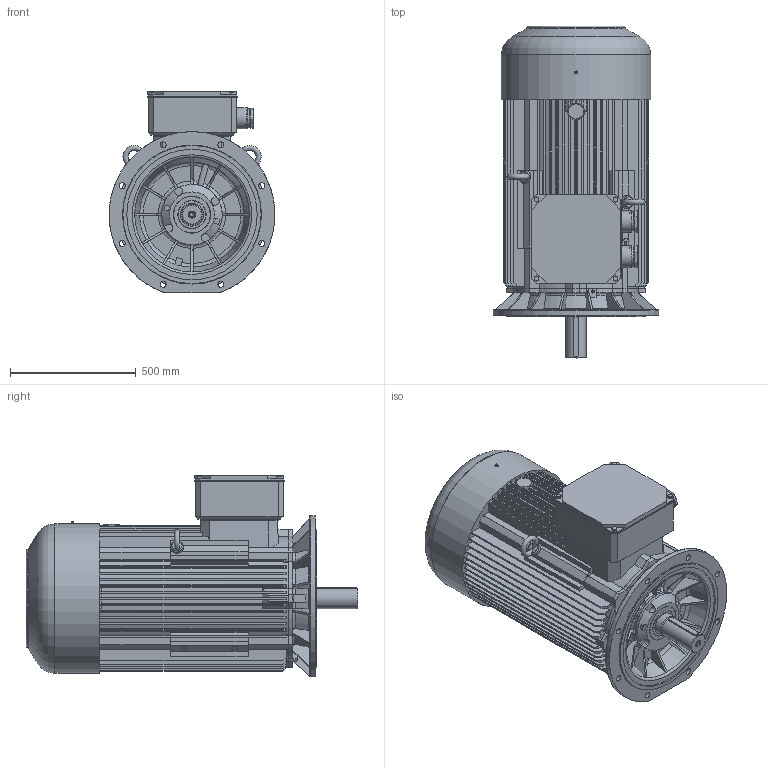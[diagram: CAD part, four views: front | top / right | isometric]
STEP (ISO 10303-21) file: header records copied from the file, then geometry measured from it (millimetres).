
FILE_DESCRIPTION( ( 'Unknown' ), '1' );
FILE_NAME( 'C:/Documents and Settings/kwalica/Pulpit/2,3 SIE paczka/3SIE 315/STP/3SIEK315_M4C_M6C.stp', 'Unknown', ( 'Unknown' ), ( 'Unknown' ), 'XStep 1.0', 'Unknown', ' ' );
FILE_SCHEMA( ( 'CONFIG_CONTROL_DESIGN' ) );
Length unit declared in the file: millimetre
Products named in the file (4): 1; 2; 3; 4
Bounding box: 660 x 1320 x 799.5 mm (x, y, z)
Volume: 280837240 mm3; surface area: 6784801.7 mm2
Topology: 4 solids, 20 shells, 1299 faces, 3527 edges, 2319 vertices
Faces by surface type: plane 791, cylinder 265, cone 121, torus 106, bspline 16
Full cylindrical faces by diameter (mm): 1.6 x2, 5 x4, 10.106 x4, 13.835 x1, 16.63 x4, 17.294 x1, 20 x1, 21 x1, 24 x12, 50 x2, 55 x2, 57 x4, 65 x4, 70 x2, 71 x6, 72 x2, 72.752 x2, 76 x2, 79.999 x1, 85 x2, 89.5 x1, 90 x1, 99.4 x1, 100 x1, 111.399 x1, 112 x1, 119.4 x1, 119.999 x1, 131.399 x1, 132 x1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
Entity records: 49973 total; most frequent: CARTESIAN_POINT 18006, ORIENTED_EDGE 6666, DIRECTION 6390, EDGE_CURVE 3333, VERTEX_POINT 2266, AXIS2_PLACEMENT_3D 2235, LINE 1920, VECTOR 1920
